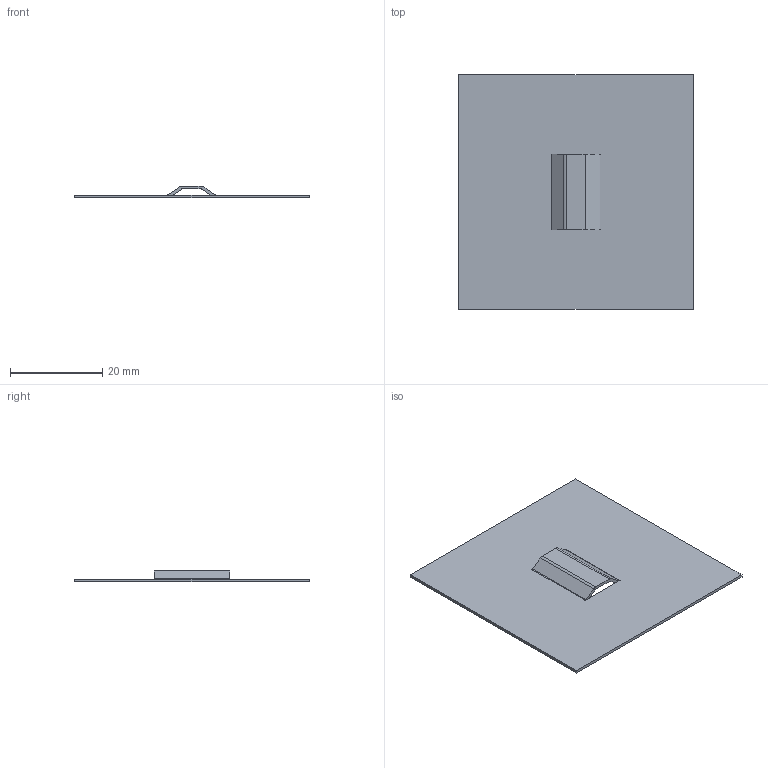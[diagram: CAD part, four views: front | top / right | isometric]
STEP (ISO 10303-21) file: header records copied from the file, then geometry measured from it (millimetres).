
FILE_DESCRIPTION((''),'1');
FILE_NAME('C:/Users/robertnolte/Desktop/WT#505758-10.stp','2012-03-27T21:23:43',(''),(''),'Spatial Interop R21 SP3','Kubotek KeyCreator 2011 V10.5.0 (24766)',' ');
FILE_SCHEMA(('CONFIG_CONTROL_DESIGN'));
Length unit declared in the file: inch
Products named in the file (1): 1
Bounding box: 50.8 x 50.8 x 2.58 mm (x, y, z)
Volume: 1650.2 mm3; surface area: 5355.1 mm2
Topology: 1 solids, 1 shells, 28 faces, 84 edges, 56 vertices
Faces by surface type: plane 20, cylinder 8
Entity records: 996 total; most frequent: CARTESIAN_POINT 169, ORIENTED_EDGE 168, DIRECTION 158, EDGE_CURVE 84, LINE 68, VECTOR 68, VERTEX_POINT 56, AXIS2_PLACEMENT_3D 45
